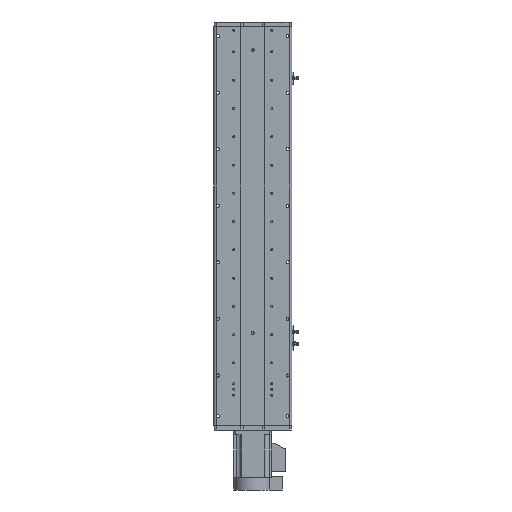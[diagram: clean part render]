
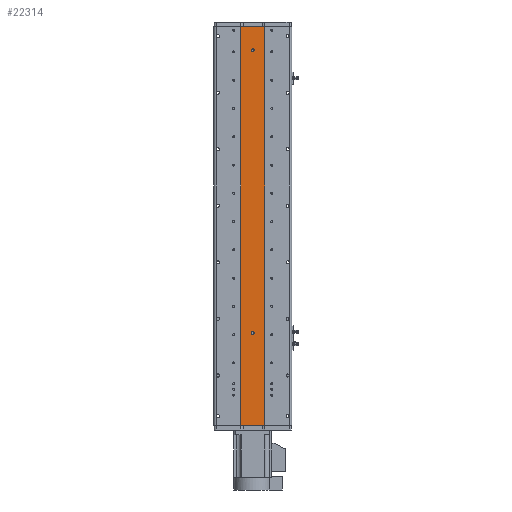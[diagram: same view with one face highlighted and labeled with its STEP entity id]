
A CAD part, front view. The second image highlights one B-rep face of the part: STEP entity #22314.
In plain terms, the highlighted planar face has unit normal (0, -1, 0).
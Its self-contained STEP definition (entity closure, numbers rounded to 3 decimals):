
#287 = EDGE_CURVE ( 'NONE', #26727, #13196, #24749, .T. ) ;
#476 = VERTEX_POINT ( 'NONE', #38042 ) ;
#598 = CARTESIAN_POINT ( 'NONE',  ( 0., 1., 373. ) ) ;
#693 = EDGE_CURVE ( 'NONE', #476, #8414, #11258, .T. ) ;
#711 = CARTESIAN_POINT ( 'NONE',  ( 25., 1., -423. ) ) ;
#1303 = FACE_OUTER_BOUND ( 'NONE', #31269, .T. ) ;
#1849 = CARTESIAN_POINT ( 'NONE',  ( -25., 1., 423. ) ) ;
#2151 = DIRECTION ( 'NONE',  ( 0., 0., -1. ) ) ;
#2828 = EDGE_LOOP ( 'NONE', ( #10141, #8731 ) ) ;
#3130 = EDGE_CURVE ( 'NONE', #11864, #21169, #28167, .T. ) ;
#3632 = DIRECTION ( 'NONE',  ( 0., 0., -1. ) ) ;
#3739 = DIRECTION ( 'NONE',  ( 1., 0., 0. ) ) ;
#3786 = LINE ( 'NONE', #35244, #33580 ) ;
#5598 = ORIENTED_EDGE ( 'NONE', *, *, #287, .F. ) ;
#8219 = ORIENTED_EDGE ( 'NONE', *, *, #26879, .F. ) ;
#8302 = DIRECTION ( 'NONE',  ( 0., 1., 0. ) ) ;
#8414 = VERTEX_POINT ( 'NONE', #37137 ) ;
#8731 = ORIENTED_EDGE ( 'NONE', *, *, #34335, .F. ) ;
#9227 = FACE_BOUND ( 'NONE', #33039, .T. ) ;
#10018 = AXIS2_PLACEMENT_3D ( 'NONE', #37835, #19970, #2151 ) ;
#10141 = ORIENTED_EDGE ( 'NONE', *, *, #34215, .F. ) ;
#10589 = DIRECTION ( 'NONE',  ( 0., -1., 0. ) ) ;
#11258 = CIRCLE ( 'NONE', #22238, 3. ) ;
#11264 = PLANE ( 'NONE',  #34698 ) ;
#11265 = EDGE_CURVE ( 'NONE', #11864, #26727, #3786, .T. ) ;
#11476 = CARTESIAN_POINT ( 'NONE',  ( -25., 1., 423. ) ) ;
#11864 = VERTEX_POINT ( 'NONE', #1849 ) ;
#12919 = DIRECTION ( 'NONE',  ( 0., -1., 0. ) ) ;
#13196 = VERTEX_POINT ( 'NONE', #17743 ) ;
#13429 = DIRECTION ( 'NONE',  ( 0., 0., -1. ) ) ;
#14153 = EDGE_CURVE ( 'NONE', #21169, #13196, #25388, .T. ) ;
#14274 = CARTESIAN_POINT ( 'NONE',  ( 25., 1., 423. ) ) ;
#14492 = DIRECTION ( 'NONE',  ( 0., 0., -1. ) ) ;
#17255 = DIRECTION ( 'NONE',  ( 0., 0., 1. ) ) ;
#17287 = ORIENTED_EDGE ( 'NONE', *, *, #693, .F. ) ;
#17434 = VECTOR ( 'NONE', #3739, 1000. ) ;
#17743 = CARTESIAN_POINT ( 'NONE',  ( 25., 1., -423. ) ) ;
#17873 = CIRCLE ( 'NONE', #10018, 3. ) ;
#18443 = AXIS2_PLACEMENT_3D ( 'NONE', #28442, #10589, #31401 ) ;
#18816 = CARTESIAN_POINT ( 'NONE',  ( 25., 1., 423. ) ) ;
#19970 = DIRECTION ( 'NONE',  ( 0., -1., 0. ) ) ;
#20387 = DIRECTION ( 'NONE',  ( 1., 0., 0. ) ) ;
#21169 = VERTEX_POINT ( 'NONE', #22133 ) ;
#21442 = DIRECTION ( 'NONE',  ( 0., -1., 0. ) ) ;
#22133 = CARTESIAN_POINT ( 'NONE',  ( -25., 1., -423. ) ) ;
#22238 = AXIS2_PLACEMENT_3D ( 'NONE', #598, #21442, #3632 ) ;
#22244 = ORIENTED_EDGE ( 'NONE', *, *, #3130, .T. ) ;
#22314 = ADVANCED_FACE ( 'NONE', ( #9227, #25084, #1303 ), #11264, .F. ) ;
#22835 = ORIENTED_EDGE ( 'NONE', *, *, #11265, .F. ) ;
#23684 = ORIENTED_EDGE ( 'NONE', *, *, #14153, .T. ) ;
#24385 = VECTOR ( 'NONE', #14492, 1000. ) ;
#24749 = LINE ( 'NONE', #28432, #31728 ) ;
#25084 = FACE_BOUND ( 'NONE', #2828, .T. ) ;
#25388 = LINE ( 'NONE', #711, #17434 ) ;
#26727 = VERTEX_POINT ( 'NONE', #18816 ) ;
#26879 = EDGE_CURVE ( 'NONE', #8414, #476, #17873, .T. ) ;
#27188 = AXIS2_PLACEMENT_3D ( 'NONE', #30747, #12919, #33776 ) ;
#28167 = LINE ( 'NONE', #11476, #24385 ) ;
#28432 = CARTESIAN_POINT ( 'NONE',  ( 25., 1., 423. ) ) ;
#28442 = CARTESIAN_POINT ( 'NONE',  ( 0., 1., -227. ) ) ;
#28656 = VERTEX_POINT ( 'NONE', #38506 ) ;
#29551 = CIRCLE ( 'NONE', #27188, 3. ) ;
#29739 = CARTESIAN_POINT ( 'NONE',  ( 0., 1., -230. ) ) ;
#30747 = CARTESIAN_POINT ( 'NONE',  ( 0., 1., -227. ) ) ;
#31269 = EDGE_LOOP ( 'NONE', ( #23684, #5598, #22835, #22244 ) ) ;
#31401 = DIRECTION ( 'NONE',  ( 0., 0., -1. ) ) ;
#31728 = VECTOR ( 'NONE', #13429, 1000. ) ;
#31847 = CIRCLE ( 'NONE', #18443, 3. ) ;
#33039 = EDGE_LOOP ( 'NONE', ( #17287, #8219 ) ) ;
#33580 = VECTOR ( 'NONE', #20387, 1000. ) ;
#33776 = DIRECTION ( 'NONE',  ( 0., 0., -1. ) ) ;
#33995 = VERTEX_POINT ( 'NONE', #29739 ) ;
#34215 = EDGE_CURVE ( 'NONE', #33995, #28656, #29551, .T. ) ;
#34335 = EDGE_CURVE ( 'NONE', #28656, #33995, #31847, .T. ) ;
#34698 = AXIS2_PLACEMENT_3D ( 'NONE', #14274, #8302, #17255 ) ;
#35244 = CARTESIAN_POINT ( 'NONE',  ( 25., 1., 423. ) ) ;
#37137 = CARTESIAN_POINT ( 'NONE',  ( 0., 1., 376. ) ) ;
#37835 = CARTESIAN_POINT ( 'NONE',  ( 0., 1., 373. ) ) ;
#38042 = CARTESIAN_POINT ( 'NONE',  ( 0., 1., 370. ) ) ;
#38506 = CARTESIAN_POINT ( 'NONE',  ( 0., 1., -224. ) ) ;
